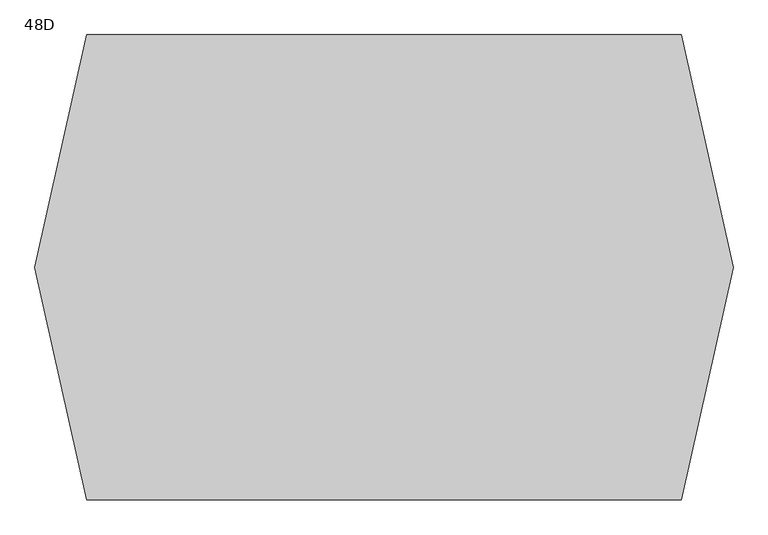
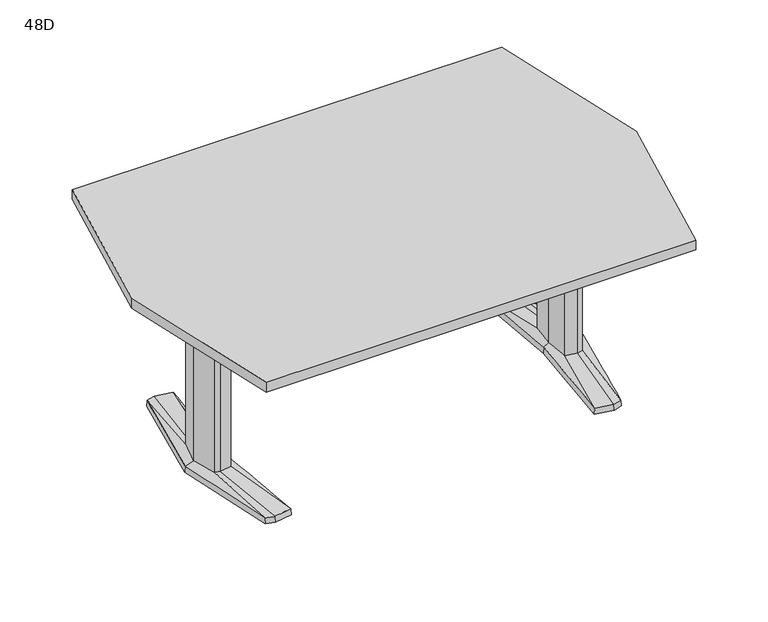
"""IFC4 building model written with IfcOpenShell, lengths in millimetres: furniture geometry, Coalesse_AM_Table_Conference_ETable2_Faceted_72in_AluminiumBase : 48D."""

from ifc_helpers import new_model, si_unit, frame, origin, place, context, project, spatial, polyline, outline, extrude, source, transform, mapped, element, save
from ifc_brep_helpers import plane_surface, spline_surface, advanced_brep


def furniture_48d_de5d3923(model_context):
    return source(origin(), model_context, "Body", "SolidModel", [
        advanced_brep(
        [(614.8503471, -379.3768856, 25.4), (644.5756636, -371.5332654, 25.4), (668.2327243, -89.293702, 36.5125), (648.9795254, -94.605478, 36.5125), (606.0521001, -87.0529327, 36.5125), (551.7612538, -368.5071562, 25.4), (597.9364207, 0.0, 36.5125), (579.8389754, 0.3970149, 25.4), (606.0521001, 87.0529327, 36.5125), (551.7615002, 368.5172593, 25.4), (648.9795254, 94.605478, 36.5125), (614.8502233, 379.3769183, 25.4), (668.2327243, 89.293702, 36.5125), (644.7535458, 371.4863276, 25.4), (692.1595251, 0.0, 36.5125), (721.4851663, 0.0003516, 25.4), (578.2468742, 0.3968871, 3.175), (550.06875, 369.8367279, 3.175), (614.9213004, 381.0, 3.175), (646.1093245, 372.7704151, 3.175), (723.10625, 0.0, 3.175), (645.9309817, -372.8174744, 3.175), (614.9213004, -381.0, 3.175), (550.06875, -369.8264415, 3.175), (649.5979264, 107.6121478, 3.175), (594.3065451, 97.8843184, 3.175), (585.1810887, 0.0, 3.175), (594.3065451, -97.8843184, 3.175), (649.5979264, -107.6121478, 3.175), (678.6183473, -99.6056872, 3.175), (705.3083085, 0.0, 3.175), (678.6183473, 99.6056872, 3.175), (613.4286812, 346.9152841, 3.175), (557.7811371, 337.3364985, 3.175), (560.1889918, 324.8641942, 3.175), (612.8600644, 333.9306305, 3.175), (648.6725609, 324.4807859, 3.175), (647.5544526, 337.9105158, 3.175), (613.4286812, -346.9152841, 3.175), (647.5544526, -337.9105158, 3.175), (648.6725609, -324.4807859, 3.175), (612.8600644, -333.9306305, 3.175), (560.1889918, -324.8641942, 3.175), (557.7811371, -337.3364985, 3.175), (649.5979264, 107.6121478, 0.0), (678.6183473, 99.6056872, 0.0), (705.3083085, 0.0, 0.0), (678.6183473, -99.6056872, 0.0), (649.5979264, -107.6121478, 0.0), (594.3065451, -97.8843184, 0.0), (585.1810887, 0.0, 0.0), (594.3065451, 97.8843184, 0.0), (613.4286812, 346.9152841, 0.0), (647.5544526, 337.9105158, 0.0), (648.6725609, 324.4807859, 0.0), (612.8600644, 333.9306305, 0.0), (560.1889918, 324.8641942, 0.0), (557.7811371, 337.3364985, 0.0), (613.4286812, -346.9152841, 0.0), (557.7811371, -337.3364985, 0.0), (560.1889918, -324.8641942, 0.0), (612.8600644, -333.9306305, 0.0), (648.6725609, -324.4807859, 0.0), (647.5544526, -337.9105158, 0.0), (668.2327243, 89.293702, 698.5), (648.9795254, 94.605478, 698.5), (606.0521001, 87.0529327, 698.5), (597.9364207, 0.0, 698.5), (606.0521001, -87.0529327, 698.5), (648.9795254, -94.605478, 698.5), (668.2327243, -89.293702, 698.5), (692.1595251, 0.0, 698.5)],
        [
            (0, 1),
            (1, 2),
            (2, 3),
            (3, 0),
            (3, 4),
            (4, 5),
            (5, 0),
            (4, 6),
            (6, 7),
            (7, 5),
            (6, 8),
            (8, 9),
            (9, 7),
            (8, 10),
            (10, 11),
            (11, 9),
            (10, 12),
            (12, 13),
            (13, 11),
            (12, 14),
            (14, 15),
            (15, 13),
            (1, 15),
            (14, 2),
            (16, 17),
            (17, 18),
            (18, 19),
            (19, 20),
            (20, 21),
            (21, 22),
            (22, 23),
            (23, 16),
            (24, 25),
            (25, 26),
            (26, 27),
            (27, 28),
            (28, 29),
            (29, 30),
            (30, 31),
            (31, 24),
            (32, 33),
            (33, 34),
            (34, 35),
            (35, 36),
            (36, 37),
            (37, 32),
            (38, 39),
            (39, 40),
            (40, 41),
            (41, 42),
            (42, 43),
            (43, 38),
            (16, 7),
            (9, 17),
            (11, 18),
            (13, 19),
            (15, 20),
            (1, 21),
            (0, 22),
            (5, 23),
            (44, 45),
            (45, 46),
            (46, 47),
            (47, 48),
            (48, 49),
            (49, 50),
            (50, 51),
            (51, 44),
            (52, 53),
            (53, 54),
            (54, 55),
            (55, 56),
            (56, 57),
            (57, 52),
            (58, 59),
            (59, 60),
            (60, 61),
            (61, 62),
            (62, 63),
            (63, 58),
            (44, 24),
            (31, 45),
            (30, 46),
            (29, 47),
            (28, 48),
            (27, 49),
            (26, 50),
            (25, 51),
            (52, 32),
            (37, 53),
            (36, 54),
            (35, 55),
            (34, 56),
            (33, 57),
            (58, 38),
            (43, 59),
            (42, 60),
            (41, 61),
            (40, 62),
            (39, 63),
            (64, 65),
            (65, 66),
            (66, 67),
            (67, 68),
            (68, 69),
            (69, 70),
            (70, 71),
            (71, 64),
            (71, 14),
            (12, 64),
            (70, 2),
            (69, 3),
            (68, 4),
            (67, 6),
            (66, 8),
            (65, 10),
        ],
        [
            spline_surface(1, 1, [[(644.5756636, -371.5332654, 25.4), (614.8503471, -379.3768856, 25.4)], [(668.2327243, -89.293702, 36.5125), (648.9795254, -94.605478, 36.5125)]], [2, 2], [2, 2], [0.0, 1.0], [0.0, 1.0]),
            spline_surface(1, 1, [[(614.8503471, -379.3768856, 25.4), (551.7612538, -368.5071562, 25.4)], [(648.9795254, -94.605478, 36.5125), (606.0521001, -87.0529327, 36.5125)]], [2, 2], [2, 2], [0.0, 1.0], [0.0, 1.0]),
            spline_surface(1, 1, [[(551.7612538, -368.5071562, 25.4), (579.8389754, 0.3970149, 25.4)], [(606.0521001, -87.0529327, 36.5125), (597.9364207, 0.0, 36.5125)]], [2, 2], [2, 2], [0.0, 1.0], [0.0, 1.0]),
            spline_surface(1, 1, [[(579.8389754, 0.3970149, 25.4), (551.7615002, 368.5172593, 25.4)], [(597.9364207, 0.0, 36.5125), (606.0521001, 87.0529327, 36.5125)]], [2, 2], [2, 2], [0.0, 1.0], [0.0, 1.0]),
            spline_surface(1, 1, [[(551.7615002, 368.5172593, 25.4), (614.8502233, 379.3769183, 25.4)], [(606.0521001, 87.0529327, 36.5125), (648.9795254, 94.605478, 36.5125)]], [2, 2], [2, 2], [0.0, 1.0], [0.0, 1.0]),
            spline_surface(1, 1, [[(614.8502233, 379.3769183, 25.4), (644.7535458, 371.4863276, 25.4)], [(648.9795254, 94.605478, 36.5125), (668.2327243, 89.293702, 36.5125)]], [2, 2], [2, 2], [0.0, 1.0], [0.0, 1.0]),
            spline_surface(1, 1, [[(644.7535458, 371.4863276, 25.4), (721.4851663, 0.0003516, 25.4)], [(668.2327243, 89.293702, 36.5125), (692.1595251, 0.0, 36.5125)]], [2, 2], [2, 2], [0.0, 1.0], [0.0, 1.0]),
            spline_surface(1, 1, [[(721.4851663, 0.0003516, 25.4), (644.5756636, -371.5332654, 25.4)], [(692.1595251, 0.0, 36.5125), (668.2327243, -89.293702, 36.5125)]], [2, 2], [2, 2], [0.0, 1.0], [0.0, 1.0]),
            plane_surface(frame((615.4216914, 0.0450143, 3.175), z_axis=(0.0, 0.0, -1.0), x_axis=(-0.9669048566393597, -0.2551372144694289, 0.0))),
            plane_surface(frame((564.1578121, 185.1168075, 3.175), z_axis=(-0.9945699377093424, -0.07585840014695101, 0.0712470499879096), x_axis=(-0.07605167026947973, 0.9971038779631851, 0.0))),
            plane_surface(frame((582.4950252, 375.418364, 3.175), z_axis=(-0.1692071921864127, 0.9830019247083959, 0.07124704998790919), x_axis=(0.985506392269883, 0.16963829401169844, 0.0))),
            plane_surface(frame((630.5153124, 376.8852076, 3.175), z_axis=(0.2544888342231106, 0.9644476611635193, 0.07124704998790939), x_axis=(0.9669048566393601, -0.25513721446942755, 0.0))),
            plane_surface(frame((684.6077872, 186.3852076, 3.175), z_axis=(0.9768383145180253, 0.2017690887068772, 0.07124704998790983), x_axis=(0.20228315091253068, -0.9793270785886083, 0.0))),
            plane_surface(frame((684.5186158, -186.4087372, 3.175), z_axis=(0.9767507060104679, -0.20219276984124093, 0.07124704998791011), x_axis=(-0.2027079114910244, -0.9792392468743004, 0.0))),
            plane_surface(frame((630.426141, -376.9087372, 3.175), z_axis=(0.2544888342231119, -0.9644476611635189, 0.0712470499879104), x_axis=(-0.9669048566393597, -0.2551372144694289, 0.0))),
            plane_surface(frame((582.4950252, -375.4132207, 3.175), z_axis=(-0.16935861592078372, -0.982975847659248, 0.07124704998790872), x_axis=(-0.9854802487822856, 0.16979010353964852, 0.0))),
            plane_surface(frame((564.1578121, -184.7147772, 3.175), z_axis=(-0.9945820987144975, 0.07569878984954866, 0.07124704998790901), x_axis=(0.07589165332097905, 0.9971160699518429, 0.0))),
            plane_surface(frame((652.3571479, 106.8509046, 0.0), z_axis=(0.0, 0.0, -1.0000000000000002), x_axis=(-0.9639855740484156, 0.26595453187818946, 0.0))),
            plane_surface(frame((649.5979264, 107.6121478, 3.175), z_axis=(0.26595453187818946, 0.9639855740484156, 0.0), x_axis=(0.0, 0.0, -1.0))),
            plane_surface(frame((678.6183473, 99.6056872, 3.175), z_axis=(0.9659241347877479, 0.2588253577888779, 0.0), x_axis=(0.0, 0.0, -1.0))),
            plane_surface(frame((705.3083085, 0.0, 3.175), z_axis=(0.9659241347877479, -0.2588253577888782, 0.0), x_axis=(0.0, 0.0, -1.0))),
            plane_surface(frame((678.6183473, -99.6056872, 3.175), z_axis=(0.26595453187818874, -0.9639855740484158, 0.0), x_axis=(0.0, 0.0, -1.0))),
            plane_surface(frame((649.5979264, -107.6121478, 3.175), z_axis=(-0.17327617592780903, -0.9848732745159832, 0.0), x_axis=(0.0, 0.0, -1.0))),
            plane_surface(frame((594.3065451, -97.8843184, 3.175), z_axis=(-0.9956824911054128, -0.0928244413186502, 0.0), x_axis=(0.0, 0.0, -1.0))),
            plane_surface(frame((585.1810887, 0.0, 3.175), z_axis=(-0.9956824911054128, 0.09282444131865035, 0.0), x_axis=(0.0, 0.0, -1.0))),
            plane_surface(frame((594.3065451, 97.8843184, 3.175), z_axis=(-0.17327617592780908, 0.984873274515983, 0.0), x_axis=(0.0, 0.0, -1.0))),
            plane_surface(frame((613.4286812, 346.9152841, 3.175), z_axis=(0.25513721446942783, 0.9669048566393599, 0.0), x_axis=(0.0, 0.0, -1.0))),
            plane_surface(frame((647.5544526, 337.9105158, 3.175), z_axis=(0.9965521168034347, 0.0829691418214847, 0.0), x_axis=(0.0, 0.0, -1.0))),
            plane_surface(frame((648.6725609, 324.4807859, 3.175), z_axis=(-0.25513721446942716, -0.9669048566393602, 0.0), x_axis=(0.0, 0.0, -1.0))),
            plane_surface(frame((612.8600644, 333.9306305, 3.175), z_axis=(0.16963829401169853, -0.985506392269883, 0.0), x_axis=(0.0, 0.0, -1.0))),
            plane_surface(frame((560.1889918, 324.8641942, 3.175), z_axis=(-0.9818699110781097, -0.18955600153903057, 0.0), x_axis=(0.0, 0.0, -1.0))),
            plane_surface(frame((557.7811371, 337.3364985, 3.175), z_axis=(-0.16963829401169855, 0.9855063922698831, 0.0), x_axis=(0.0, 0.0, -1.0))),
            plane_surface(frame((613.4286812, -346.9152841, 3.175), z_axis=(-0.1696382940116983, -0.9855063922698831, 0.0), x_axis=(0.0, 0.0, -1.0))),
            plane_surface(frame((557.7811371, -337.3364985, 3.175), z_axis=(-0.9818699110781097, 0.18955600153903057, 0.0), x_axis=(0.0, 0.0, -1.0))),
            plane_surface(frame((560.1889918, -324.8641942, 3.175), z_axis=(0.16963829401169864, 0.985506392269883, 0.0), x_axis=(0.0, 0.0, -1.0))),
            plane_surface(frame((612.8600644, -333.9306305, 3.175), z_axis=(-0.2551372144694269, 0.9669048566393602, 0.0), x_axis=(0.0, 0.0, -1.0))),
            plane_surface(frame((648.6725609, -324.4807859, 3.175), z_axis=(0.9965521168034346, -0.0829691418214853, 0.0), x_axis=(0.0, 0.0, -1.0))),
            plane_surface(frame((647.5544526, -337.9105158, 3.175), z_axis=(0.2551372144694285, -0.9669048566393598, 0.0), x_axis=(0.0, 0.0, -1.0))),
            plane_surface(frame((692.1595251, 0.0, 698.5), z_axis=(0.0, 0.0, 1.0), x_axis=(0.25882535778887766, -0.965924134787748, 0.0))),
            plane_surface(frame((668.2327243, 89.293702, 698.5), z_axis=(0.965924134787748, 0.25882535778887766, 0.0), x_axis=(0.0, 0.0, -1.0))),
            plane_surface(frame((692.1595251, 0.0, 698.5), z_axis=(0.965924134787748, -0.2588253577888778, 0.0), x_axis=(0.0, 0.0, -1.0))),
            plane_surface(frame((668.2327243, -89.293702, 698.5), z_axis=(0.2659545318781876, -0.963985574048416, 0.0), x_axis=(0.0, 0.0, -1.0))),
            plane_surface(frame((648.9795254, -94.605478, 698.5), z_axis=(-0.1732761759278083, -0.9848732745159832, 0.0), x_axis=(0.0, 0.0, -1.0))),
            plane_surface(frame((606.0521001, -87.0529327, 698.5), z_axis=(-0.9956824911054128, -0.0928244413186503, 0.0), x_axis=(0.0, 0.0, -1.0))),
            plane_surface(frame((597.9364207, 0.0, 698.5), z_axis=(-0.9956824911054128, 0.09282444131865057, 0.0), x_axis=(0.0, 0.0, -1.0))),
            plane_surface(frame((606.0521001, 87.0529327, 698.5), z_axis=(-0.17327617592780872, 0.9848732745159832, 0.0), x_axis=(0.0, 0.0, -1.0))),
            plane_surface(frame((648.9795254, 94.605478, 698.5), z_axis=(0.26595453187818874, 0.9639855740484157, 0.0), x_axis=(0.0, 0.0, -1.0))),
        ],
        [
            (0, [[1, 2, 3, 4]]),
            (1, [[5, 6, 7, -4]]),
            (2, [[8, 9, 10, -6]]),
            (3, [[11, 12, 13, -9]]),
            (4, [[14, 15, 16, -12]]),
            (5, [[17, 18, 19, -15]]),
            (6, [[20, 21, 22, -18]]),
            (7, [[23, -21, 24, -2]]),
            (8, [[25, 26, 27, 28, 29, 30, 31, 32], [33, 34, 35, 36, 37, 38, 39, 40], [41, 42, 43, 44, 45, 46], [47, 48, 49, 50, 51, 52]]),
            (9, [[53, -13, 54, -25]]),
            (10, [[-54, -16, 55, -26]]),
            (11, [[-55, -19, 56, -27]]),
            (12, [[-56, -22, 57, -28]]),
            (13, [[-57, -23, 58, -29]]),
            (14, [[-58, -1, 59, -30]]),
            (15, [[-59, -7, 60, -31]]),
            (16, [[-60, -10, -53, -32]]),
            (17, [[61, 62, 63, 64, 65, 66, 67, 68]]),
            (17, [[69, 70, 71, 72, 73, 74]]),
            (17, [[75, 76, 77, 78, 79, 80]]),
            (18, [[81, -40, 82, -61]]),
            (19, [[-82, -39, 83, -62]]),
            (20, [[-83, -38, 84, -63]]),
            (21, [[-84, -37, 85, -64]]),
            (22, [[-85, -36, 86, -65]]),
            (23, [[-86, -35, 87, -66]]),
            (24, [[-87, -34, 88, -67]]),
            (25, [[-88, -33, -81, -68]]),
            (26, [[89, -46, 90, -69]]),
            (27, [[-90, -45, 91, -70]]),
            (28, [[-91, -44, 92, -71]]),
            (29, [[-92, -43, 93, -72]]),
            (30, [[-93, -42, 94, -73]]),
            (31, [[-94, -41, -89, -74]]),
            (32, [[95, -52, 96, -75]]),
            (33, [[-96, -51, 97, -76]]),
            (34, [[-97, -50, 98, -77]]),
            (35, [[-98, -49, 99, -78]]),
            (36, [[-99, -48, 100, -79]]),
            (37, [[-100, -47, -95, -80]]),
            (38, [[101, 102, 103, 104, 105, 106, 107, 108]]),
            (39, [[109, -20, 110, -108]]),
            (40, [[111, -24, -109, -107]]),
            (41, [[112, -3, -111, -106]]),
            (42, [[113, -5, -112, -105]]),
            (43, [[114, -8, -113, -104]]),
            (44, [[115, -11, -114, -103]]),
            (45, [[116, -14, -115, -102]]),
            (46, [[-110, -17, -116, -101]]),
        ],
    ),
        advanced_brep(
        [(-614.8503471, -379.3768856, 25.4), (-648.9795254, -94.605478, 36.5125), (-668.2327243, -89.293702, 36.5125), (-644.5756636, -371.5332654, 25.4), (-551.7612538, -368.5071562, 25.4), (-606.0521001, -87.0529327, 36.5125), (-579.8389754, 0.3970149, 25.4), (-597.9364207, 0.0, 36.5125), (-551.7615002, 368.5172593, 25.4), (-606.0521001, 87.0529327, 36.5125), (-614.8502233, 379.3769183, 25.4), (-648.9795254, 94.605478, 36.5125), (-644.7535458, 371.4863276, 25.4), (-668.2327243, 89.293702, 36.5125), (-721.4851663, 0.0003516, 25.4), (-692.1595251, 0.0, 36.5125), (-578.2468742, 0.3968871, 3.175), (-550.06875, -369.8264415, 3.175), (-614.9213004, -381.0, 3.175), (-645.9309817, -372.8174744, 3.175), (-723.10625, 0.0, 3.175), (-646.1093245, 372.7704151, 3.175), (-614.9213004, 381.0, 3.175), (-550.06875, 369.8367279, 3.175), (-649.5979264, 107.6121478, 3.175), (-678.6183473, 99.6056872, 3.175), (-705.3083085, 0.0, 3.175), (-678.6183473, -99.6056872, 3.175), (-649.5979264, -107.6121478, 3.175), (-594.3065451, -97.8843184, 3.175), (-585.1810887, 0.0, 3.175), (-594.3065451, 97.8843184, 3.175), (-613.4286812, 346.9152841, 3.175), (-647.5544526, 337.9105158, 3.175), (-648.6725609, 324.4807859, 3.175), (-612.8600644, 333.9306305, 3.175), (-560.1889918, 324.8641942, 3.175), (-557.7811371, 337.3364985, 3.175), (-613.4286812, -346.9152841, 3.175), (-557.7811371, -337.3364985, 3.175), (-560.1889918, -324.8641942, 3.175), (-612.8600644, -333.9306305, 3.175), (-648.6725609, -324.4807859, 3.175), (-647.5544526, -337.9105158, 3.175), (-649.5979264, 107.6121478, 0.0), (-594.3065451, 97.8843184, 0.0), (-585.1810887, 0.0, 0.0), (-594.3065451, -97.8843184, 0.0), (-649.5979264, -107.6121478, 0.0), (-678.6183473, -99.6056872, 0.0), (-705.3083085, 0.0, 0.0), (-678.6183473, 99.6056872, 0.0), (-613.4286812, 346.9152841, 0.0), (-557.7811371, 337.3364985, 0.0), (-560.1889918, 324.8641942, 0.0), (-612.8600644, 333.9306305, 0.0), (-648.6725609, 324.4807859, 0.0), (-647.5544526, 337.9105158, 0.0), (-613.4286812, -346.9152841, 0.0), (-647.5544526, -337.9105158, 0.0), (-648.6725609, -324.4807859, 0.0), (-612.8600644, -333.9306305, 0.0), (-560.1889918, -324.8641942, 0.0), (-557.7811371, -337.3364985, 0.0), (-668.2327243, 89.293702, 698.5), (-692.1595251, 0.0, 698.5), (-668.2327243, -89.293702, 698.5), (-648.9795254, -94.605478, 698.5), (-606.0521001, -87.0529327, 698.5), (-597.9364207, 0.0, 698.5), (-606.0521001, 87.0529327, 698.5), (-648.9795254, 94.605478, 698.5)],
        [
            (0, 1),
            (1, 2),
            (2, 3),
            (3, 0),
            (0, 4),
            (4, 5),
            (5, 1),
            (4, 6),
            (6, 7),
            (7, 5),
            (6, 8),
            (8, 9),
            (9, 7),
            (8, 10),
            (10, 11),
            (11, 9),
            (10, 12),
            (12, 13),
            (13, 11),
            (12, 14),
            (14, 15),
            (15, 13),
            (2, 15),
            (14, 3),
            (16, 17),
            (17, 18),
            (18, 19),
            (19, 20),
            (20, 21),
            (21, 22),
            (22, 23),
            (23, 16),
            (24, 25),
            (25, 26),
            (26, 27),
            (27, 28),
            (28, 29),
            (29, 30),
            (30, 31),
            (31, 24),
            (32, 33),
            (33, 34),
            (34, 35),
            (35, 36),
            (36, 37),
            (37, 32),
            (38, 39),
            (39, 40),
            (40, 41),
            (41, 42),
            (42, 43),
            (43, 38),
            (23, 8),
            (6, 16),
            (22, 10),
            (21, 12),
            (20, 14),
            (19, 3),
            (18, 0),
            (17, 4),
            (44, 45),
            (45, 46),
            (46, 47),
            (47, 48),
            (48, 49),
            (49, 50),
            (50, 51),
            (51, 44),
            (52, 53),
            (53, 54),
            (54, 55),
            (55, 56),
            (56, 57),
            (57, 52),
            (58, 59),
            (59, 60),
            (60, 61),
            (61, 62),
            (62, 63),
            (63, 58),
            (51, 25),
            (24, 44),
            (50, 26),
            (49, 27),
            (48, 28),
            (47, 29),
            (46, 30),
            (45, 31),
            (57, 33),
            (32, 52),
            (56, 34),
            (55, 35),
            (54, 36),
            (53, 37),
            (63, 39),
            (38, 58),
            (62, 40),
            (61, 41),
            (60, 42),
            (59, 43),
            (64, 65),
            (65, 66),
            (66, 67),
            (67, 68),
            (68, 69),
            (69, 70),
            (70, 71),
            (71, 64),
            (64, 13),
            (15, 65),
            (2, 66),
            (1, 67),
            (5, 68),
            (7, 69),
            (9, 70),
            (11, 71),
        ],
        [
            spline_surface(1, 1, [[(-644.5756636, -371.5332654, 25.4), (-668.2327243, -89.293702, 36.5125)], [(-614.8503471, -379.3768856, 25.4), (-648.9795254, -94.605478, 36.5125)]], [2, 2], [2, 2], [0.0, 1.0], [0.0, 1.0]),
            spline_surface(1, 1, [[(-614.8503471, -379.3768856, 25.4), (-648.9795254, -94.605478, 36.5125)], [(-551.7612538, -368.5071562, 25.4), (-606.0521001, -87.0529327, 36.5125)]], [2, 2], [2, 2], [0.0, 1.0], [0.0, 1.0]),
            spline_surface(1, 1, [[(-551.7612538, -368.5071562, 25.4), (-606.0521001, -87.0529327, 36.5125)], [(-579.8389754, 0.3970149, 25.4), (-597.9364207, 0.0, 36.5125)]], [2, 2], [2, 2], [0.0, 1.0], [0.0, 1.0]),
            spline_surface(1, 1, [[(-579.8389754, 0.3970149, 25.4), (-597.9364207, 0.0, 36.5125)], [(-551.7615002, 368.5172593, 25.4), (-606.0521001, 87.0529327, 36.5125)]], [2, 2], [2, 2], [0.0, 1.0], [0.0, 1.0]),
            spline_surface(1, 1, [[(-551.7615002, 368.5172593, 25.4), (-606.0521001, 87.0529327, 36.5125)], [(-614.8502233, 379.3769183, 25.4), (-648.9795254, 94.605478, 36.5125)]], [2, 2], [2, 2], [0.0, 1.0], [0.0, 1.0]),
            spline_surface(1, 1, [[(-614.8502233, 379.3769183, 25.4), (-648.9795254, 94.605478, 36.5125)], [(-644.7535458, 371.4863276, 25.4), (-668.2327243, 89.293702, 36.5125)]], [2, 2], [2, 2], [0.0, 1.0], [0.0, 1.0]),
            spline_surface(1, 1, [[(-644.7535458, 371.4863276, 25.4), (-668.2327243, 89.293702, 36.5125)], [(-721.4851663, 0.0003516, 25.4), (-692.1595251, 0.0, 36.5125)]], [2, 2], [2, 2], [0.0, 1.0], [0.0, 1.0]),
            spline_surface(1, 1, [[(-721.4851663, 0.0003516, 25.4), (-692.1595251, 0.0, 36.5125)], [(-644.5756636, -371.5332654, 25.4), (-668.2327243, -89.293702, 36.5125)]], [2, 2], [2, 2], [0.0, 1.0], [0.0, 1.0]),
            plane_surface(frame((-615.4216914, 0.0450143, 3.175), z_axis=(0.0, 0.0, -1.0), x_axis=(0.9669048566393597, -0.2551372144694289, 0.0))),
            plane_surface(frame((-564.1578121, 185.1168075, 3.175), z_axis=(0.9945699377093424, -0.07585840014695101, 0.0712470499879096), x_axis=(0.07605167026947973, 0.9971038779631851, 0.0))),
            plane_surface(frame((-582.4950252, 375.418364, 3.175), z_axis=(0.1692071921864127, 0.9830019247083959, 0.07124704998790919), x_axis=(-0.985506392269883, 0.16963829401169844, 0.0))),
            plane_surface(frame((-630.5153124, 376.8852076, 3.175), z_axis=(-0.2544888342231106, 0.9644476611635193, 0.07124704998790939), x_axis=(-0.9669048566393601, -0.25513721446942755, 0.0))),
            plane_surface(frame((-684.6077872, 186.3852076, 3.175), z_axis=(-0.9768383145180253, 0.2017690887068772, 0.07124704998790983), x_axis=(-0.20228315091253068, -0.9793270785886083, 0.0))),
            plane_surface(frame((-684.5186158, -186.4087372, 3.175), z_axis=(-0.9767507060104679, -0.20219276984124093, 0.07124704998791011), x_axis=(0.2027079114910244, -0.9792392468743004, 0.0))),
            plane_surface(frame((-630.426141, -376.9087372, 3.175), z_axis=(-0.2544888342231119, -0.9644476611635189, 0.0712470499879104), x_axis=(0.9669048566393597, -0.2551372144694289, 0.0))),
            plane_surface(frame((-582.4950252, -375.4132207, 3.175), z_axis=(0.16935861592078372, -0.982975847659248, 0.07124704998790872), x_axis=(0.9854802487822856, 0.16979010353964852, 0.0))),
            plane_surface(frame((-564.1578121, -184.7147772, 3.175), z_axis=(0.9945820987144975, 0.07569878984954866, 0.07124704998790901), x_axis=(-0.07589165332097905, 0.9971160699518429, 0.0))),
            plane_surface(frame((-652.3571479, 106.8509046, 0.0), z_axis=(0.0, 0.0, -1.0000000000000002), x_axis=(0.9639855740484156, 0.26595453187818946, 0.0))),
            plane_surface(frame((-649.5979264, 107.6121478, 3.175), z_axis=(-0.26595453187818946, 0.9639855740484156, 0.0), x_axis=(0.0, 0.0, -1.0))),
            plane_surface(frame((-678.6183473, 99.6056872, 3.175), z_axis=(-0.9659241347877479, 0.2588253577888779, 0.0), x_axis=(0.0, 0.0, -1.0))),
            plane_surface(frame((-705.3083085, 0.0, 3.175), z_axis=(-0.9659241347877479, -0.2588253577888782, 0.0), x_axis=(0.0, 0.0, -1.0))),
            plane_surface(frame((-678.6183473, -99.6056872, 3.175), z_axis=(-0.26595453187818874, -0.9639855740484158, 0.0), x_axis=(0.0, 0.0, -1.0))),
            plane_surface(frame((-649.5979264, -107.6121478, 3.175), z_axis=(0.17327617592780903, -0.9848732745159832, 0.0), x_axis=(0.0, 0.0, -1.0))),
            plane_surface(frame((-594.3065451, -97.8843184, 3.175), z_axis=(0.9956824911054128, -0.0928244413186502, 0.0), x_axis=(0.0, 0.0, -1.0))),
            plane_surface(frame((-585.1810887, 0.0, 3.175), z_axis=(0.9956824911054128, 0.09282444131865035, 0.0), x_axis=(0.0, 0.0, -1.0))),
            plane_surface(frame((-594.3065451, 97.8843184, 3.175), z_axis=(0.17327617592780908, 0.984873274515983, 0.0), x_axis=(0.0, 0.0, -1.0))),
            plane_surface(frame((-613.4286812, 346.9152841, 3.175), z_axis=(-0.25513721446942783, 0.9669048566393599, 0.0), x_axis=(0.0, 0.0, -1.0))),
            plane_surface(frame((-647.5544526, 337.9105158, 3.175), z_axis=(-0.9965521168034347, 0.0829691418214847, 0.0), x_axis=(0.0, 0.0, -1.0))),
            plane_surface(frame((-648.6725609, 324.4807859, 3.175), z_axis=(0.25513721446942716, -0.9669048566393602, 0.0), x_axis=(0.0, 0.0, -1.0))),
            plane_surface(frame((-612.8600644, 333.9306305, 3.175), z_axis=(-0.16963829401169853, -0.985506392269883, 0.0), x_axis=(0.0, 0.0, -1.0))),
            plane_surface(frame((-560.1889918, 324.8641942, 3.175), z_axis=(0.9818699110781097, -0.18955600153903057, 0.0), x_axis=(0.0, 0.0, -1.0))),
            plane_surface(frame((-557.7811371, 337.3364985, 3.175), z_axis=(0.16963829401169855, 0.9855063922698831, 0.0), x_axis=(0.0, 0.0, -1.0))),
            plane_surface(frame((-613.4286812, -346.9152841, 3.175), z_axis=(0.1696382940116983, -0.9855063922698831, 0.0), x_axis=(0.0, 0.0, -1.0))),
            plane_surface(frame((-557.7811371, -337.3364985, 3.175), z_axis=(0.9818699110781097, 0.18955600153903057, 0.0), x_axis=(0.0, 0.0, -1.0))),
            plane_surface(frame((-560.1889918, -324.8641942, 3.175), z_axis=(-0.16963829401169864, 0.985506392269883, 0.0), x_axis=(0.0, 0.0, -1.0))),
            plane_surface(frame((-612.8600644, -333.9306305, 3.175), z_axis=(0.2551372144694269, 0.9669048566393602, 0.0), x_axis=(0.0, 0.0, -1.0))),
            plane_surface(frame((-648.6725609, -324.4807859, 3.175), z_axis=(-0.9965521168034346, -0.0829691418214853, 0.0), x_axis=(0.0, 0.0, -1.0))),
            plane_surface(frame((-647.5544526, -337.9105158, 3.175), z_axis=(-0.2551372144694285, -0.9669048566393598, 0.0), x_axis=(0.0, 0.0, -1.0))),
            plane_surface(frame((-692.1595251, 0.0, 698.5), z_axis=(0.0, 0.0, 1.0), x_axis=(-0.25882535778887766, -0.965924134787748, 0.0))),
            plane_surface(frame((-668.2327243, 89.293702, 698.5), z_axis=(-0.965924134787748, 0.25882535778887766, 0.0), x_axis=(0.0, 0.0, -1.0))),
            plane_surface(frame((-692.1595251, 0.0, 698.5), z_axis=(-0.965924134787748, -0.2588253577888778, 0.0), x_axis=(0.0, 0.0, -1.0))),
            plane_surface(frame((-668.2327243, -89.293702, 698.5), z_axis=(-0.2659545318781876, -0.963985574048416, 0.0), x_axis=(0.0, 0.0, -1.0))),
            plane_surface(frame((-648.9795254, -94.605478, 698.5), z_axis=(0.1732761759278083, -0.9848732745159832, 0.0), x_axis=(0.0, 0.0, -1.0))),
            plane_surface(frame((-606.0521001, -87.0529327, 698.5), z_axis=(0.9956824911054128, -0.0928244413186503, 0.0), x_axis=(0.0, 0.0, -1.0))),
            plane_surface(frame((-597.9364207, 0.0, 698.5), z_axis=(0.9956824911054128, 0.09282444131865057, 0.0), x_axis=(0.0, 0.0, -1.0))),
            plane_surface(frame((-606.0521001, 87.0529327, 698.5), z_axis=(0.17327617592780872, 0.9848732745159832, 0.0), x_axis=(0.0, 0.0, -1.0))),
            plane_surface(frame((-648.9795254, 94.605478, 698.5), z_axis=(-0.26595453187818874, 0.9639855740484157, 0.0), x_axis=(0.0, 0.0, -1.0))),
        ],
        [
            (0, [[1, 2, 3, 4]]),
            (1, [[-1, 5, 6, 7]]),
            (2, [[-6, 8, 9, 10]]),
            (3, [[-9, 11, 12, 13]]),
            (4, [[-12, 14, 15, 16]]),
            (5, [[-15, 17, 18, 19]]),
            (6, [[-18, 20, 21, 22]]),
            (7, [[-3, 23, -21, 24]]),
            (8, [[25, 26, 27, 28, 29, 30, 31, 32], [33, 34, 35, 36, 37, 38, 39, 40], [41, 42, 43, 44, 45, 46], [47, 48, 49, 50, 51, 52]]),
            (9, [[-32, 53, -11, 54]]),
            (10, [[-31, 55, -14, -53]]),
            (11, [[-30, 56, -17, -55]]),
            (12, [[-29, 57, -20, -56]]),
            (13, [[-28, 58, -24, -57]]),
            (14, [[-27, 59, -4, -58]]),
            (15, [[-26, 60, -5, -59]]),
            (16, [[-25, -54, -8, -60]]),
            (17, [[61, 62, 63, 64, 65, 66, 67, 68]]),
            (17, [[69, 70, 71, 72, 73, 74]]),
            (17, [[75, 76, 77, 78, 79, 80]]),
            (18, [[-68, 81, -33, 82]]),
            (19, [[-67, 83, -34, -81]]),
            (20, [[-66, 84, -35, -83]]),
            (21, [[-65, 85, -36, -84]]),
            (22, [[-64, 86, -37, -85]]),
            (23, [[-63, 87, -38, -86]]),
            (24, [[-62, 88, -39, -87]]),
            (25, [[-61, -82, -40, -88]]),
            (26, [[-74, 89, -41, 90]]),
            (27, [[-73, 91, -42, -89]]),
            (28, [[-72, 92, -43, -91]]),
            (29, [[-71, 93, -44, -92]]),
            (30, [[-70, 94, -45, -93]]),
            (31, [[-69, -90, -46, -94]]),
            (32, [[-80, 95, -47, 96]]),
            (33, [[-79, 97, -48, -95]]),
            (34, [[-78, 98, -49, -97]]),
            (35, [[-77, 99, -50, -98]]),
            (36, [[-76, 100, -51, -99]]),
            (37, [[-75, -96, -52, -100]]),
            (38, [[101, 102, 103, 104, 105, 106, 107, 108]]),
            (39, [[-101, 109, -22, 110]]),
            (40, [[-102, -110, -23, 111]]),
            (41, [[-103, -111, -2, 112]]),
            (42, [[-104, -112, -7, 113]]),
            (43, [[-105, -113, -10, 114]]),
            (44, [[-106, -114, -13, 115]]),
            (45, [[-107, -115, -16, 116]]),
            (46, [[-108, -116, -19, -109]]),
        ],
    ),
        extrude(outline(polyline([(96.8375, 698.5), (103.1875, 698.5), (103.1875, 476.25), (-103.1875, 476.25), (-103.1875, 698.5), (-96.8375, 698.5), (-96.8375, 482.6), (96.8375, 482.6), (96.8375, 698.5)])), frame((-597.9364207, 0.0, 0.0), z_axis=(1.0, 0.0, 0.0), x_axis=(0.0, 1.0, 0.0)), (0.0, 0.0, 1.0), 1195.8728415),
        extrude(outline(polyline([(779.2541794, 609.6), (914.4, 0.0), (779.2541794, -609.6), (-779.2541794, -609.6), (-914.4, 0.0), (-779.2541794, 609.6), (779.2541794, 609.6)])), frame((0.0, 0.0, 698.5), z_axis=(0.0, 0.0, 1.0), x_axis=(1.0, 0.0, 0.0)), (0.0, 0.0, 1.0), 38.1),
    ])


if __name__ == "__main__":
    model = new_model("IFC4")
    model_context = context("Model", 3, world=origin())
    ifc_project = project(units=[si_unit("LENGTHUNIT", "METRE", prefix="MILLI")], contexts=[model_context])
    site = spatial("IfcSite", under=ifc_project)
    building = spatial("IfcBuilding", under=site)
    placement = place(None, origin())
    furniture_48d_shape = furniture_48d_de5d3923(model_context)
    element("IfcFurniture", 1, ObjectType="Coalesse_AM_Table_Conference_ETable2_Faceted_72in_AluminiumBase : 48D", at=placement, inside=building, context=model_context, shape_type="MappedRepresentation", body=[
        mapped(furniture_48d_shape, transform((0.0, 0.0, 0.0), x_axis=(1.0, 0.0, 0.0), y_axis=(0.0, 1.0, 0.0), z_axis=(0.0, 0.0, 1.0))),
    ])
    save(model, "model.ifc")
